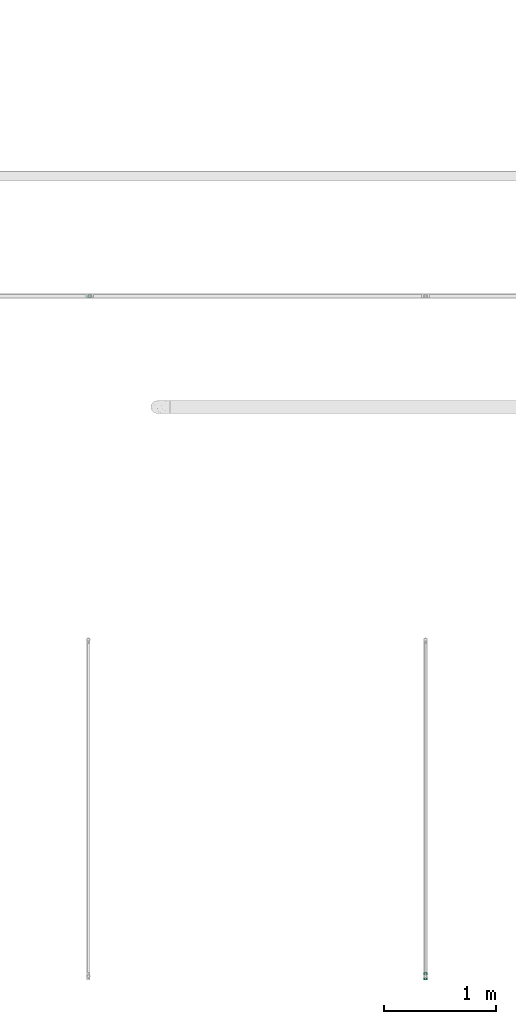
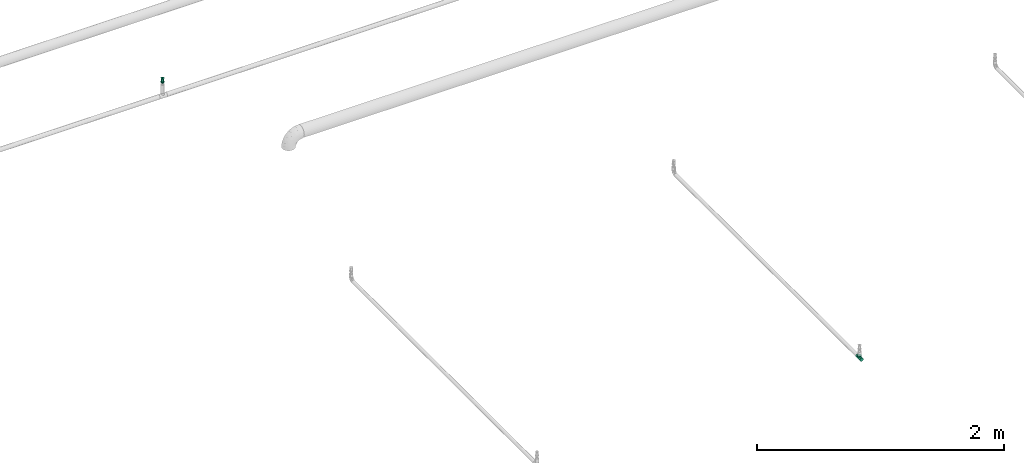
# One storey, part 20 of 94: 1 flow fitting, 1 flow terminal.
"""IFC2X3 building model written with IfcOpenShell, lengths in millimetres."""

from ifc_helpers import new_model, entity, si_unit, converted_unit, derived_unit, direction, frame, origin_with_axes, place, context, subcontext, project, spatial, open_shell, surface_model, source, transform, mapped, type_object, element, save


model = new_model("IFC2X3")

# Units and contexts
model_context = context("Model", 3, precision=0.01, world=frame((0.0, 4.29681676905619e-09, 0.0)), true_north=direction((4.01073788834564e-13, 1.0)))
plan_context = context("Plan", 3, precision=0.01, world=frame((0.0, 4.29681676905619e-09, 0.0)), true_north=direction((4.01073788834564e-13, 1.0)))
body_context = subcontext(model_context, "Body", "Model", "MODEL_VIEW")
ifc_project = project(units=[converted_unit("PLANEANGLEUNIT", "DEGREE", entity("IfcPositiveLengthMeasure", 0.0174532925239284), si_unit("PLANEANGLEUNIT", "RADIAN"), dimensions=[0, 0, 0, 0, 0, 0, 0]), si_unit("AREAUNIT", "SQUARE_METRE"), si_unit("LENGTHUNIT", "METRE", prefix="MILLI"), si_unit("MASSUNIT", "GRAM", prefix="KILO"), si_unit("POWERUNIT", "WATT"), si_unit("PRESSUREUNIT", "PASCAL"), si_unit("FORCEUNIT", "NEWTON", prefix="KILO"), si_unit("ELECTRICCURRENTUNIT", "AMPERE"), si_unit("THERMODYNAMICTEMPERATUREUNIT", "DEGREE_CELSIUS"), si_unit("TIMEUNIT", "SECOND"), si_unit("VOLUMEUNIT", "CUBIC_METRE"), derived_unit("LINEARVELOCITYUNIT", [(si_unit("LENGTHUNIT", "METRE"), 1), (si_unit("TIMEUNIT", "SECOND"), -1)]), derived_unit("VOLUMETRICFLOWRATEUNIT", [(si_unit("VOLUMEUNIT", "CUBIC_METRE"), 1), (si_unit("TIMEUNIT", "SECOND"), -1)]), derived_unit("THERMALTRANSMITTANCEUNIT", [(si_unit("POWERUNIT", "WATT"), 1), (si_unit("THERMODYNAMICTEMPERATUREUNIT", "KELVIN"), -1), (si_unit("AREAUNIT", "SQUARE_METRE"), -1)])], contexts=[model_context, plan_context])

# Site, building, storey
site_placement = place(None, frame((0.0, -4.29681676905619e-09, 0.0), z_axis=(0.0, 0.0, 1.0), x_axis=(1.0, 0.0, 0.0)))
site = spatial("IfcSite", under=ifc_project, at=site_placement, CompositionType="ELEMENT")
building_placement = place(site_placement, frame((0.0, 4.29681676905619e-09, 0.0), z_axis=(0.0, 0.0, 1.0), x_axis=(1.0, 0.0, 0.0)))
building = spatial("IfcBuilding", under=site, at=building_placement, Name="mc-building", CompositionType="ELEMENT")
storey_placement = place(building_placement, frame((0.0, 0.0, 200300.0), z_axis=(0.0, 0.0, 1.0), x_axis=(1.0, 0.0, 0.0)))
storey = spatial("IfcBuildingStorey", under=building, at=storey_placement, Name="Nivå C", CompositionType="ELEMENT", Elevation=200300.0)

# Flow fitting
pipe_fitting_type = type_object("IfcPipeFittingType", Name="magi_pipe_fe_tee_centric_90_NOR", PredefinedType="JUNCTION")
shared_shape_1 = source(origin_with_axes(), body_context, "Body", "SurfaceModel", [
    surface_model("IfcShellBasedSurfaceModel", [(-33.8, 4.37404, -16.32415), (-33.8, 0.0, -16.9), (-33.8, 16.32415, -4.37404), (-33.8, 8.45, -14.63583), (-33.8, 11.9501, -11.9501), (-33.8, 14.63583, -8.45), (-33.8, -16.9, 0.0), (-33.8, -11.9501, -11.9501), (-33.8, -14.63583, -8.45), (-33.8, -8.45, -14.63583), (-33.8, -4.37404, -16.32415), (-33.8, -16.32415, -4.37404), (-33.8, 14.63583, 8.45), (-33.8, 16.32415, 4.37404), (-33.8, -8.45, 14.63583), (-33.8, 8.45, 14.63583), (-33.8, 11.9501, 11.9501), (-33.8, 4.37404, 16.32415), (-33.8, 0.0, 16.9), (-33.8, -11.9501, 11.9501), (-33.8, -14.63583, 8.45), (-33.8, -16.32415, 4.37404), (-33.8, -4.37404, 16.32415), (-33.8, 16.9, 0.0), (33.8, 4.37404, -16.32415), (33.8, -16.9, 0.0), (33.8, 0.0, -16.9), (33.8, 14.63583, -8.45), (33.8, 8.45, -14.63583), (33.8, 16.32415, -4.37404), (33.8, 11.9501, -11.9501), (33.8, -16.32415, 4.37404), (33.8, -8.45, -14.63583), (33.8, -4.37404, -16.32415), (33.8, -11.9501, -11.9501), (33.8, -14.63583, -8.45), (33.8, -16.32415, -4.37404), (33.8, 16.32415, 4.37404), (33.8, 8.45, 14.63583), (33.8, 14.63583, 8.45), (33.8, 11.9501, 11.9501), (33.8, -8.45, 14.63583), (33.8, 4.37404, 16.32415), (33.8, -14.63583, 8.45), (33.8, -11.9501, 11.9501), (33.8, 0.0, 16.9), (33.8, -4.37404, 16.32415), (33.8, 16.9, 0.0), (16.28698, -16.28698, 4.51047), (16.9, -16.9, 0.0), (14.62704, -14.62704, 8.4652), (9.47213, -9.47213, 13.99602), (12.26343, -12.26343, 11.62834), (-16.9, -16.9, 0.0), (-16.28698, -16.28698, 4.51047), (-14.62704, -14.62704, 8.4652), (-12.26343, -12.26343, 11.62834), (-9.47213, -9.47213, 13.99602), (-6.42894, -6.42894, 15.62942), (6.42894, -6.42894, 15.62942), (3.24522, -3.24522, 16.58549), (0.0, 0.0, 16.9), (-3.24522, -3.24522, 16.58549), (3.24522, -3.24522, -16.58549), (0.0, 0.0, -16.9), (-3.24522, -3.24522, -16.58549), (-6.42894, -6.42894, -15.62942), (6.42894, -6.42894, -15.62942), (9.47213, -9.47213, -13.99602), (12.26343, -12.26343, -11.62834), (14.62704, -14.62704, -8.4652), (16.28698, -16.28698, -4.51047), (-9.47213, -9.47213, -13.99602), (-12.26343, -12.26343, -11.62834), (-16.28698, -16.28698, -4.51047), (-14.62704, -14.62704, -8.4652), (4.37404, -25.35, -16.32415), (-16.9, -25.35, 0.0), (0.0, -25.35, -16.9), (14.63583, -25.35, -8.45), (8.45, -25.35, -14.63583), (16.32415, -25.35, -4.37404), (11.9501, -25.35, -11.9501), (-11.9501, -25.35, -11.9501), (-8.45, -25.35, -14.63583), (-4.37404, -25.35, -16.32415), (-14.63583, -25.35, -8.45), (-16.32415, -25.35, -4.37404), (16.9, -25.35, 0.0), (8.45, -25.35, 14.63583), (16.32415, -25.35, 4.37404), (14.63583, -25.35, 8.45), (-8.45, -25.35, 14.63583), (11.9501, -25.35, 11.9501), (4.37404, -25.35, 16.32415), (-16.32415, -25.35, 4.37404), (-11.9501, -25.35, 11.9501), (-14.63583, -25.35, 8.45), (0.0, -25.35, 16.9), (-4.37404, -25.35, 16.32415)], [open_shell([[[0, 1, 2]], [[3, 0, 4]], [[0, 2, 5]], [[4, 0, 5]], [[6, 2, 1]], [[7, 8, 9]], [[1, 10, 9]], [[11, 6, 8]], [[1, 9, 8]], [[1, 8, 6]], [[6, 12, 2]], [[12, 13, 2]], [[14, 12, 6]], [[12, 14, 15]], [[16, 12, 15]], [[17, 15, 18]], [[19, 14, 20]], [[21, 20, 14]], [[22, 18, 14]], [[14, 6, 21]], [[14, 18, 15]], [[23, 2, 13]], [[24, 25, 26]], [[27, 24, 28]], [[27, 29, 24]], [[27, 28, 30]], [[31, 25, 24]], [[26, 32, 33]], [[26, 34, 32]], [[35, 25, 36]], [[35, 34, 26]], [[25, 35, 26]], [[24, 29, 31]], [[29, 37, 38]], [[38, 37, 39]], [[38, 31, 29]], [[38, 39, 40]], [[41, 38, 42]], [[43, 41, 44]], [[41, 43, 31]], [[41, 45, 46]], [[41, 31, 38]], [[42, 45, 41]], [[29, 47, 37]], [[31, 43, 48]], [[25, 31, 49]], [[49, 31, 48]], [[43, 50, 48]], [[44, 41, 51]], [[50, 43, 52]], [[51, 52, 44]], [[52, 43, 44]], [[53, 54, 21]], [[53, 21, 6]], [[21, 54, 20]], [[54, 55, 20]], [[56, 57, 19]], [[19, 20, 56]], [[19, 57, 14]], [[56, 20, 55]], [[14, 57, 58]], [[51, 41, 59]], [[60, 45, 61]], [[59, 46, 60]], [[46, 59, 41]], [[60, 46, 45]], [[61, 45, 42]], [[39, 37, 13]], [[16, 38, 40]], [[12, 40, 39]], [[42, 38, 15]], [[23, 37, 47]], [[62, 61, 18]], [[62, 22, 58]], [[22, 62, 18]], [[58, 22, 14]], [[61, 17, 18]], [[42, 17, 61]], [[15, 17, 42]], [[15, 38, 16]], [[12, 16, 40]], [[13, 12, 39]], [[37, 23, 13]], [[5, 27, 30]], [[23, 47, 29]], [[30, 28, 3]], [[27, 2, 29]], [[26, 33, 63]], [[26, 64, 24]], [[64, 26, 63]], [[28, 24, 0]], [[64, 0, 24]], [[4, 30, 3]], [[2, 27, 5]], [[5, 30, 4]], [[2, 23, 29]], [[65, 66, 10]], [[1, 0, 64]], [[1, 65, 10]], [[66, 9, 10]], [[0, 3, 28]], [[1, 64, 65]], [[63, 33, 67]], [[32, 34, 68]], [[69, 68, 34]], [[35, 70, 69]], [[69, 34, 35]], [[32, 68, 67]], [[36, 25, 49]], [[36, 71, 35]], [[71, 36, 49]], [[35, 71, 70]], [[72, 9, 66]], [[72, 7, 9]], [[7, 72, 73]], [[7, 73, 8]], [[74, 53, 11]], [[75, 74, 8]], [[74, 11, 8]], [[11, 53, 6]], [[75, 8, 73]], [[32, 67, 33]], [[76, 77, 78]], [[79, 76, 80]], [[79, 81, 76]], [[79, 80, 82]], [[77, 76, 81]], [[78, 83, 84]], [[84, 85, 78]], [[86, 77, 87]], [[83, 78, 86]], [[77, 86, 78]], [[81, 88, 77]], [[89, 88, 90]], [[89, 90, 91]], [[92, 77, 89]], [[89, 91, 93]], [[92, 89, 94]], [[95, 96, 97]], [[96, 95, 92]], [[92, 98, 99]], [[95, 77, 92]], [[94, 98, 92]], [[89, 77, 88]], [[77, 95, 53]], [[54, 53, 95]], [[97, 96, 56]], [[96, 92, 57]], [[95, 97, 54]], [[58, 92, 99]], [[55, 54, 97]], [[56, 55, 97]], [[58, 57, 92]], [[98, 61, 62]], [[58, 99, 62]], [[56, 96, 57]], [[62, 99, 98]], [[94, 60, 98]], [[89, 59, 94]], [[91, 90, 48]], [[52, 93, 91]], [[93, 51, 89]], [[49, 90, 88]], [[59, 60, 94]], [[51, 59, 89]], [[49, 48, 90]], [[50, 52, 91]], [[48, 50, 91]], [[51, 93, 52]], [[98, 60, 61]], [[88, 81, 49]], [[71, 49, 81]], [[79, 82, 69]], [[82, 80, 68]], [[81, 79, 71]], [[67, 80, 76]], [[70, 71, 79]], [[69, 70, 79]], [[67, 68, 80]], [[78, 64, 63]], [[67, 76, 63]], [[69, 82, 68]], [[63, 76, 78]], [[85, 65, 78]], [[84, 66, 85]], [[86, 87, 74]], [[86, 73, 83]], [[72, 84, 83]], [[53, 87, 77]], [[66, 65, 85]], [[72, 66, 84]], [[53, 74, 87]], [[75, 73, 86]], [[74, 75, 86]], [[72, 83, 73]], [[78, 65, 64]]])]),
])
flow_fitting_placement = place(storey_placement, frame((524508.12395, 400928.19532, 2900.0), z_axis=(-1.0, 0.0, 0.0), x_axis=(0.0, 1.0, 0.0)))
element("IfcFlowFitting", 1, at=flow_fitting_placement, inside=storey, type_object=pipe_fitting_type, Name="magi_pipe_fe_tee_centric_90_NOR", context=body_context, shape_type="MappedRepresentation", body=[
    mapped(shared_shape_1, transform((0.0, 0.0, 0.0), scale=1.0)),
])

# Flow terminal
fire_suppression_terminal_type = type_object("IfcFireSuppressionTerminalType", Name="68DGR-STD-STÅENDE", PredefinedType="NOTDEFINED")
shared_shape_2 = source(origin_with_axes(), body_context, "Body", "SurfaceModel", [
    surface_model("IfcShellBasedSurfaceModel", [(12.55704, 3.36465, 21.14766), (13.0, 0.0, 21.14766), (12.55704, -3.36465, 21.14766), (-12.55704, -3.36465, 21.14766), (-11.25833, -6.5, 21.14766), (-11.25833, -6.5, 51.0), (3.36465, -12.55704, 51.0), (3.36465, -12.55704, 21.14766), (6.5, -11.25833, 21.14766), (9.19239, -9.19239, 21.14766), (11.25833, -6.5, 21.14766), (9.19239, -9.19239, 51.0), (6.5, -11.25833, 51.0), (11.25833, -6.5, 51.0), (12.55704, -3.36465, 51.0), (13.0, 0.0, 51.0), (9.19239, 9.19239, 51.0), (11.25833, 6.5, 21.14766), (9.19239, 9.19239, 21.14766), (11.25833, 6.5, 51.0), (12.55704, 3.36465, 51.0), (6.5, 11.25833, 51.0), (6.5, 11.25833, 21.14766), (3.36465, 12.55704, 21.14766), (3.36465, 12.55704, 51.0), (-11.25833, 6.5, 51.0), (-11.25833, 6.5, 21.14766), (-12.55704, 3.36465, 21.14766), (0.0, -2.5, 51.0), (-2.5, 0.0, 51.0), (0.0, 2.5, 51.0), (2.5, 0.0, 51.0), (11.31371, 11.31371, 53.0), (-11.31371, 11.31371, 53.0), (-11.31371, -11.31371, 53.0), (11.31371, -11.31371, 53.0), (1.62635, 1.62635, 51.0), (2.16506, 1.25, 51.0), (1.99186, 1.15, 51.0), (-1.76777, 1.76777, 51.0), (-1.25, 2.16506, 51.0), (-1.62635, 1.62635, 51.0), (1.99186, -1.15, 51.0), (2.16506, -1.25, 51.0), (1.62635, -1.62635, 51.0), (-1.62635, -1.62635, 51.0), (-1.25, -2.16506, 51.0), (-1.76777, -1.76777, 51.0), (0.0, 7.3, 0.0), (1.94114, 7.24444, 0.0), (1.88938, 7.05126, 0.0), (5.16188, 5.16188, 0.0), (6.49519, 3.75, 0.0), (6.32199, 3.65, 0.0), (-5.3033, 5.3033, 0.0), (-3.75, 6.49519, 0.0), (-5.16188, 5.16188, 0.0), (6.32199, -3.65, 0.0), (6.49519, -3.75, 0.0), (5.16188, -5.16188, 0.0), (1.88938, -7.05126, 0.0), (1.94114, -7.24444, 0.0), (0.0, -7.3, 0.0), (-5.16188, -5.16188, 0.0), (-3.75, -6.49519, 0.0), (-5.3033, -5.3033, 0.0), (-3.36465, 12.55704, 51.0), (-6.5, 11.25833, 51.0), (0.0, 13.0, 51.0), (-9.19239, 9.19239, 51.0), (0.0, -13.0, 51.0), (-9.19239, -9.19239, 51.0), (-12.55704, -3.36465, 51.0), (-6.5, -11.25833, 51.0), (-3.36465, -12.55704, 51.0), (-7.5, 0.0, -0.1), (-7.24444, 1.94114, 0.1), (-7.24444, 1.94114, -0.1), (-6.49519, 3.75, 0.1), (-6.49519, 3.75, -0.1), (-3.75, 6.49519, -0.1), (-5.3033, 5.3033, -0.1), (-3.75, 6.49519, 0.1), (-5.3033, 5.3033, 0.1), (-1.94114, 7.24444, -0.1), (-1.94114, 7.24444, 0.1), (-7.5, 0.0, 0.1), (0.0, 7.5, 0.1), (0.0, 7.5, -0.1), (1.94114, 7.24444, 0.1), (1.94114, 7.24444, -0.1), (3.75, 6.49519, 0.1), (3.75, 6.49519, -0.1), (6.49519, 3.75, -0.1), (5.3033, 5.3033, -0.1), (6.49519, 3.75, 0.1), (5.3033, 5.3033, 0.1), (7.24444, 1.94114, -0.1), (7.24444, 1.94114, 0.1), (7.5, 0.0, 0.1), (7.5, 0.0, -0.1), (-7.24444, -1.94114, 0.1), (7.24444, -1.94114, 0.1), (5.3033, -5.3033, 0.1), (6.49519, -3.75, 0.1), (-6.49519, -3.75, 0.1), (0.0, -7.5, 0.1), (1.94114, -7.24444, 0.1), (3.75, -6.49519, 0.1), (-3.75, -6.49519, 0.1), (-1.94114, -7.24444, 0.1), (-5.3033, -5.3033, 0.1), (0.0, -7.5, -0.1), (-6.49519, -3.75, -0.1), (1.94114, -7.24444, -0.1), (3.75, -6.49519, -0.1), (5.3033, -5.3033, -0.1), (7.24444, -1.94114, -0.1), (6.49519, -3.75, -0.1), (-3.75, -6.49519, -0.1), (-5.3033, -5.3033, -0.1), (-1.94114, -7.24444, -0.1), (-7.24444, -1.94114, -0.1), (16.0, 0.0, 53.0), (0.0, -16.0, 53.0), (-16.0, 0.0, 53.0), (0.0, 16.0, 53.0), (0.64705, 2.41481, 57.0), (0.0, 2.5, 57.0), (1.25, 2.16506, 57.0), (-2.5, 0.0, 57.0), (1.76777, 1.76777, 57.0), (2.41481, 0.64705, 57.0), (2.16506, 1.25, 57.0), (-0.64705, 2.41481, 57.0), (-1.25, 2.16506, 57.0), (-1.76777, 1.76777, 57.0), (-2.16506, 1.25, 57.0), (-2.41481, 0.64705, 57.0), (2.5, 0.0, 57.0), (1.76777, -1.76777, 57.0), (2.16506, -1.25, 57.0), (2.41481, -0.64705, 57.0), (-2.41481, -0.64705, 57.0), (0.64705, -2.41481, 57.0), (1.25, -2.16506, 57.0), (0.0, -2.5, 57.0), (-1.76777, -1.76777, 57.0), (-2.16506, -1.25, 57.0), (-1.25, -2.16506, 57.0), (-0.64705, -2.41481, 57.0), (1.15, -1.99186, 51.0), (1.76777, -1.76777, 51.0), (1.25, -2.16506, 51.0), (0.59528, -2.22163, 51.0), (0.0, -2.3, 51.0), (0.64705, -2.41481, 51.0), (2.22163, -0.59528, 51.0), (2.3, 0.0, 51.0), (2.41481, -0.64705, 51.0), (-0.64705, -2.41481, 51.0), (-0.59528, -2.22163, 51.0), (-1.15, -1.99186, 51.0), (-2.16506, -1.25, 51.0), (-1.99186, -1.15, 51.0), (-2.22163, -0.59528, 51.0), (-2.3, 0.0, 51.0), (-2.41481, -0.64705, 51.0), (2.22163, 0.59528, 51.0), (2.41481, 0.64705, 51.0), (1.76777, 1.76777, 51.0), (1.15, 1.99186, 51.0), (1.25, 2.16506, 51.0), (0.59528, 2.22163, 51.0), (0.0, 2.3, 51.0), (0.64705, 2.41481, 51.0), (-1.99186, 1.15, 51.0), (-2.16506, 1.25, 51.0), (-2.41481, 0.64705, 51.0), (-2.22163, 0.59528, 51.0), (-0.64705, 2.41481, 51.0), (-0.59528, 2.22163, 51.0), (-1.15, 1.99186, 51.0), (-2.22163, 0.59528, 56.8), (-1.99186, 1.15, 56.8), (-1.15, 1.99186, 56.8), (-1.62635, 1.62635, 56.8), (-0.59528, 2.22163, 56.8), (-2.3, 0.0, 56.8), (0.0, 2.3, 56.8), (0.59528, 2.22163, 56.8), (1.15, 1.99186, 56.8), (1.99186, 1.15, 56.8), (1.62635, 1.62635, 56.8), (2.22163, 0.59528, 56.8), (2.3, 0.0, 56.8), (2.22163, -0.59528, 56.8), (1.99186, -1.15, 56.8), (1.62635, -1.62635, 56.8), (1.15, -1.99186, 56.8), (0.59528, -2.22163, 56.8), (0.0, -2.3, 56.8), (-1.99186, -1.15, 56.8), (-2.22163, -0.59528, 56.8), (-1.62635, -1.62635, 56.8), (-0.59528, -2.22163, 56.8), (-1.15, -1.99186, 56.8), (8.0, -13.85641, 13.0), (4.1411, -15.45481, 13.0), (0.0, -16.0, 13.0), (-4.1411, -15.45481, 13.0), (15.45481, -4.1411, 13.0), (13.85641, -8.0, 13.0), (11.31371, -11.31371, 13.0), (-16.0, 0.0, 13.0), (-8.0, -13.85641, 13.0), (-11.31371, -11.31371, 13.0), (-13.85641, -8.0, 13.0), (-15.45481, -4.1411, 13.0), (15.45481, 4.1411, 13.0), (4.1411, 15.45481, 13.0), (13.85641, 8.0, 13.0), (8.0, 13.85641, 13.0), (11.31371, 11.31371, 13.0), (-15.45481, 4.1411, 13.0), (-11.31371, 11.31371, 13.0), (-8.0, 13.85641, 13.0), (-13.85641, 8.0, 13.0), (-4.1411, 15.45481, 13.0), (0.0, 16.0, 13.0), (16.0, 0.0, 13.0), (7.05126, 1.88938, 12.8), (1.88938, 7.05126, 12.8), (3.65, 6.32199, 12.8), (6.32199, 3.65, 12.8), (5.16188, 5.16188, 12.8), (7.3, 0.0, 12.8), (0.0, 7.3, 12.8), (-3.65, 6.32199, 12.8), (-1.88938, 7.05126, 12.8), (-5.16188, 5.16188, 12.8), (-7.05126, 1.88938, 12.8), (-6.32199, 3.65, 12.8), (7.05126, -1.88938, 12.8), (0.0, -7.3, 12.8), (6.32199, -3.65, 12.8), (3.65, -6.32199, 12.8), (5.16188, -5.16188, 12.8), (1.88938, -7.05126, 12.8), (-7.3, 0.0, 12.8), (-6.32199, -3.65, 12.8), (-7.05126, -1.88938, 12.8), (-1.88938, -7.05126, 12.8), (-5.16188, -5.16188, 12.8), (-3.65, -6.32199, 12.8), (-7.05126, 1.88938, 0.0), (-7.3, 0.0, 0.0), (-6.32199, 3.65, 0.0), (-3.65, 6.32199, 0.0), (-1.88938, 7.05126, 0.0), (3.65, 6.32199, 0.0), (7.05126, 1.88938, 0.0), (7.3, 0.0, 0.0), (3.75, 6.49519, 13.0), (1.94114, 7.24444, 13.0), (7.5, 0.0, 13.0), (5.3033, 5.3033, 13.0), (7.24444, 1.94114, 13.0), (6.49519, 3.75, 13.0), (-5.3033, 5.3033, 13.0), (-7.24444, -1.94114, 13.0), (-1.94114, 7.24444, 13.0), (-3.75, 6.49519, 13.0), (0.0, 7.5, 13.0), (-6.49519, 3.75, 13.0), (-7.24444, 1.94114, 13.0), (7.24444, -1.94114, 13.0), (5.3033, -5.3033, 13.0), (6.49519, -3.75, 13.0), (-6.49519, -3.75, 13.0), (0.0, -7.5, 13.0), (1.94114, -7.24444, 13.0), (3.75, -6.49519, 13.0), (-7.5, 0.0, 13.0), (-3.75, -6.49519, 13.0), (-1.94114, -7.24444, 13.0), (-5.3033, -5.3033, 13.0), (3.65, -6.32199, 0.0), (5.3033, -5.3033, 0.0), (3.75, -6.49519, 0.0), (0.0, -7.5, 0.0), (7.05126, -1.88938, 0.0), (7.24444, -1.94114, 0.0), (7.5, 0.0, 0.0), (-1.94114, -7.24444, 0.0), (-1.88938, -7.05126, 0.0), (-3.65, -6.32199, 0.0), (-6.49519, -3.75, 0.0), (-6.32199, -3.65, 0.0), (-7.05126, -1.88938, 0.0), (-7.24444, -1.94114, 0.0), (-7.5, 0.0, 0.0), (7.24444, 1.94114, 0.0), (5.3033, 5.3033, 0.0), (3.75, 6.49519, 0.0), (0.0, 7.5, 0.0), (-6.49519, 3.75, 0.0), (-7.24444, 1.94114, 0.0), (-1.94114, 7.24444, 0.0), (-12.55704, 3.36465, 51.0), (-13.0, 0.0, 51.0), (0.0, -13.0, 21.14766), (-3.36465, -12.55704, 21.14766), (-6.5, -11.25833, 21.14766), (-9.19239, -9.19239, 21.14766), (-13.0, 0.0, 21.14766), (-9.19239, 9.19239, 21.14766), (-6.5, 11.25833, 21.14766), (-3.36465, 12.55704, 21.14766), (0.0, 13.0, 21.14766), (11.31371, 11.31371, 19.0), (8.0, 13.85641, 19.0), (4.1411, 15.45481, 19.0), (-8.0, 13.85641, 19.0), (16.0, 0.0, 19.0), (15.45481, 4.1411, 19.0), (13.85641, 8.0, 19.0), (-4.1411, 15.45481, 19.0), (0.0, 16.0, 19.0), (-11.31371, 11.31371, 19.0), (-13.85641, 8.0, 19.0), (-15.45481, 4.1411, 19.0), (15.45481, -4.1411, 19.0), (11.31371, -11.31371, 19.0), (13.85641, -8.0, 19.0), (-16.0, 0.0, 19.0), (0.0, -16.0, 19.0), (4.1411, -15.45481, 19.0), (8.0, -13.85641, 19.0), (-13.85641, -8.0, 19.0), (-11.31371, -11.31371, 19.0), (-15.45481, -4.1411, 19.0), (-8.0, -13.85641, 19.0), (-4.1411, -15.45481, 19.0)], [open_shell([[[0, 1, 2]], [[3, 4, 5]], [[6, 7, 8]], [[9, 10, 11]], [[9, 11, 12]], [[10, 13, 11]], [[14, 13, 2]], [[1, 15, 14]], [[16, 17, 18]], [[0, 19, 20]], [[20, 15, 1]], [[21, 16, 18]], [[22, 23, 24]], [[16, 19, 17]], [[25, 26, 27]], [[28, 29, 30]], [[30, 31, 28]], [[31, 30, 32]], [[33, 30, 29]], [[29, 28, 34]], [[35, 28, 31]], [[36, 37, 38]], [[39, 40, 41]], [[42, 43, 44]], [[45, 46, 47]], [[48, 49, 50]], [[51, 52, 53]], [[54, 55, 56]], [[57, 58, 59]], [[60, 61, 62]], [[63, 64, 65]], [[66, 67, 68]], [[67, 24, 68]], [[69, 25, 67]], [[15, 20, 14]], [[70, 6, 12]], [[5, 71, 72]], [[73, 74, 71]], [[72, 71, 74]], [[75, 76, 77]], [[77, 78, 79]], [[80, 81, 82]], [[83, 81, 79]], [[84, 80, 85]], [[76, 78, 77]], [[75, 86, 76]], [[80, 82, 85]], [[82, 81, 83]], [[79, 78, 83]], [[84, 85, 87]], [[87, 88, 84]], [[88, 89, 90]], [[90, 91, 92]], [[93, 94, 95]], [[96, 94, 92]], [[97, 93, 98]], [[91, 96, 92]], [[90, 89, 91]], [[97, 98, 99]], [[98, 93, 95]], [[94, 96, 95]], [[97, 99, 100]], [[87, 89, 88]], [[91, 89, 99]], [[96, 91, 98]], [[91, 99, 98]], [[95, 96, 98]], [[89, 83, 101]], [[85, 82, 87]], [[83, 87, 82]], [[78, 76, 83]], [[89, 87, 83]], [[76, 101, 83]], [[102, 99, 89]], [[103, 104, 102]], [[89, 105, 103]], [[103, 106, 107]], [[108, 103, 107]], [[106, 103, 105]], [[89, 101, 105]], [[101, 76, 86]], [[109, 110, 111]], [[105, 111, 110]], [[106, 105, 110]], [[103, 102, 89]], [[112, 113, 114]], [[115, 114, 116]], [[117, 118, 116]], [[113, 116, 114]], [[116, 113, 117]], [[119, 120, 121]], [[113, 121, 120]], [[121, 113, 112]], [[113, 122, 117]], [[75, 77, 122]], [[100, 117, 122]], [[100, 81, 97]], [[93, 97, 90]], [[90, 92, 94]], [[93, 90, 94]], [[90, 97, 81]], [[79, 81, 77]], [[77, 81, 122]], [[84, 88, 80]], [[81, 80, 88]], [[81, 88, 90]], [[100, 122, 81]], [[100, 102, 117]], [[117, 104, 118]], [[115, 116, 108]], [[103, 116, 118]], [[114, 115, 107]], [[102, 104, 117]], [[100, 99, 102]], [[115, 108, 107]], [[108, 116, 103]], [[118, 104, 103]], [[114, 107, 106]], [[106, 112, 114]], [[112, 110, 121]], [[121, 109, 119]], [[113, 120, 105]], [[111, 120, 119]], [[122, 113, 101]], [[109, 111, 119]], [[121, 110, 109]], [[122, 101, 86]], [[101, 113, 105]], [[120, 111, 105]], [[122, 86, 75]], [[106, 110, 112]], [[31, 123, 35]], [[35, 124, 28]], [[124, 34, 28]], [[29, 34, 125]], [[33, 32, 126]], [[33, 125, 124]], [[124, 32, 33]], [[124, 35, 123]], [[124, 125, 34]], [[123, 32, 124]], [[29, 125, 33]], [[33, 126, 30]], [[126, 32, 30]], [[31, 32, 123]], [[127, 128, 129]], [[129, 130, 131]], [[132, 131, 130]], [[133, 131, 132]], [[130, 129, 128]], [[134, 135, 128]], [[136, 128, 135]], [[137, 138, 136]], [[128, 136, 130]], [[138, 130, 136]], [[139, 132, 130]], [[140, 141, 142]], [[143, 140, 139]], [[144, 140, 143]], [[145, 140, 144]], [[146, 144, 147]], [[139, 130, 143]], [[143, 148, 144]], [[149, 150, 147]], [[144, 148, 147]], [[146, 147, 150]], [[140, 142, 139]], [[151, 152, 153]], [[154, 151, 153]], [[155, 154, 156]], [[153, 156, 154]], [[28, 155, 156]], [[44, 152, 151]], [[157, 158, 159]], [[31, 159, 158]], [[43, 157, 159]], [[152, 44, 43]], [[157, 43, 42]], [[160, 161, 28]], [[161, 155, 28]], [[162, 161, 160]], [[160, 46, 162]], [[162, 46, 45]], [[47, 163, 164]], [[165, 164, 163]], [[45, 47, 164]], [[166, 165, 167]], [[163, 167, 165]], [[29, 166, 167]], [[168, 169, 31]], [[38, 169, 168]], [[169, 38, 37]], [[170, 37, 36]], [[171, 172, 170]], [[173, 172, 171]], [[174, 175, 173]], [[172, 173, 175]], [[30, 175, 174]], [[170, 36, 171]], [[39, 176, 177]], [[41, 176, 39]], [[178, 177, 176]], [[178, 179, 29]], [[176, 179, 178]], [[179, 166, 29]], [[180, 30, 181]], [[182, 180, 181]], [[182, 41, 40]], [[180, 182, 40]], [[181, 30, 174]], [[31, 158, 168]], [[29, 138, 178]], [[178, 137, 177]], [[40, 39, 135]], [[136, 39, 177]], [[180, 40, 134]], [[138, 137, 178]], [[29, 130, 138]], [[40, 135, 134]], [[135, 39, 136]], [[177, 137, 136]], [[180, 134, 128]], [[128, 30, 180]], [[30, 127, 175]], [[175, 129, 172]], [[37, 170, 133]], [[131, 170, 172]], [[169, 37, 132]], [[129, 131, 172]], [[175, 127, 129]], [[169, 132, 139]], [[132, 37, 133]], [[170, 131, 133]], [[169, 139, 31]], [[128, 127, 30]], [[179, 183, 166]], [[176, 184, 179]], [[185, 41, 182]], [[176, 41, 186]], [[187, 182, 181]], [[179, 184, 183]], [[183, 188, 166]], [[187, 185, 182]], [[186, 41, 185]], [[186, 184, 176]], [[189, 187, 181]], [[181, 174, 189]], [[173, 190, 174]], [[171, 191, 173]], [[192, 36, 38]], [[171, 36, 193]], [[194, 38, 168]], [[171, 193, 191]], [[191, 190, 173]], [[195, 194, 168]], [[192, 38, 194]], [[192, 193, 36]], [[158, 195, 168]], [[174, 190, 189]], [[31, 142, 159]], [[159, 141, 43]], [[153, 152, 145]], [[140, 152, 43]], [[156, 153, 144]], [[142, 141, 159]], [[31, 139, 142]], [[153, 145, 144]], [[145, 152, 140]], [[43, 141, 140]], [[156, 144, 146]], [[146, 28, 156]], [[28, 150, 160]], [[160, 149, 46]], [[163, 47, 148]], [[147, 47, 46]], [[167, 163, 143]], [[149, 147, 46]], [[160, 150, 149]], [[167, 143, 130]], [[143, 163, 148]], [[47, 147, 148]], [[167, 130, 29]], [[146, 150, 28]], [[190, 191, 193]], [[190, 193, 195]], [[194, 195, 193]], [[194, 193, 192]], [[190, 195, 186]], [[189, 185, 187]], [[185, 189, 186]], [[186, 183, 184]], [[186, 189, 190]], [[186, 196, 183]], [[186, 195, 196]], [[196, 197, 198]], [[196, 198, 199]], [[199, 200, 201]], [[199, 201, 196]], [[196, 201, 202]], [[188, 202, 203]], [[183, 202, 188]], [[204, 205, 206]], [[205, 204, 202]], [[201, 205, 202]], [[202, 183, 196]], [[157, 196, 158]], [[42, 197, 157]], [[199, 44, 151]], [[42, 44, 198]], [[200, 151, 154]], [[157, 197, 196]], [[196, 195, 158]], [[200, 199, 151]], [[198, 44, 199]], [[198, 197, 42]], [[201, 200, 154]], [[154, 155, 201]], [[161, 205, 155]], [[162, 206, 161]], [[202, 45, 164]], [[162, 45, 204]], [[203, 164, 165]], [[162, 204, 206]], [[206, 205, 161]], [[188, 203, 165]], [[202, 164, 203]], [[202, 204, 45]], [[166, 188, 165]], [[155, 205, 201]], [[207, 208, 209]], [[207, 209, 210]], [[211, 212, 213]], [[213, 207, 214]], [[211, 213, 214]], [[215, 216, 210]], [[217, 210, 216]], [[217, 218, 210]], [[218, 207, 210]], [[218, 214, 207]], [[214, 219, 211]], [[220, 219, 214]], [[221, 219, 220]], [[220, 222, 223]], [[221, 220, 223]], [[214, 224, 220]], [[225, 226, 227]], [[224, 227, 226]], [[228, 229, 226]], [[220, 224, 226]], [[226, 229, 220]], [[219, 230, 211]], [[231, 232, 233]], [[234, 233, 235]], [[231, 236, 232]], [[231, 233, 234]], [[232, 236, 237]], [[237, 238, 239]], [[238, 237, 240]], [[240, 241, 242]], [[240, 237, 236]], [[236, 241, 240]], [[236, 243, 241]], [[244, 243, 245]], [[246, 245, 247]], [[246, 248, 244]], [[246, 244, 245]], [[243, 244, 249]], [[249, 250, 251]], [[250, 249, 252]], [[253, 252, 254]], [[252, 253, 250]], [[249, 244, 252]], [[243, 249, 241]], [[255, 241, 256]], [[257, 242, 255]], [[238, 56, 258]], [[257, 56, 240]], [[239, 258, 259]], [[255, 242, 241]], [[241, 249, 256]], [[239, 238, 258]], [[240, 56, 238]], [[240, 242, 257]], [[237, 239, 259]], [[259, 48, 237]], [[50, 232, 48]], [[260, 233, 50]], [[234, 51, 53]], [[260, 51, 235]], [[231, 53, 261]], [[260, 235, 233]], [[233, 232, 50]], [[236, 231, 261]], [[234, 53, 231]], [[234, 235, 51]], [[262, 236, 261]], [[48, 232, 237]], [[263, 264, 265]], [[266, 263, 267]], [[263, 265, 267]], [[268, 266, 267]], [[264, 269, 270]], [[271, 272, 273]], [[269, 273, 272]], [[274, 275, 269]], [[264, 273, 269]], [[275, 270, 269]], [[276, 265, 264]], [[277, 278, 276]], [[264, 279, 277]], [[277, 280, 281]], [[282, 277, 281]], [[280, 277, 279]], [[264, 270, 279]], [[270, 275, 283]], [[284, 285, 286]], [[279, 286, 285]], [[280, 279, 285]], [[277, 276, 264]], [[287, 288, 289]], [[60, 287, 289]], [[290, 62, 61]], [[289, 61, 60]], [[59, 288, 287]], [[291, 262, 292]], [[293, 292, 262]], [[58, 291, 292]], [[288, 59, 58]], [[291, 58, 57]], [[294, 295, 290]], [[296, 295, 294]], [[294, 64, 296]], [[64, 63, 296]], [[295, 62, 290]], [[65, 297, 298]], [[299, 298, 297]], [[63, 65, 298]], [[256, 299, 300]], [[297, 300, 299]], [[301, 256, 300]], [[261, 302, 293]], [[53, 302, 261]], [[302, 53, 52]], [[303, 52, 51]], [[260, 304, 303]], [[50, 304, 260]], [[304, 50, 49]], [[305, 49, 48]], [[303, 51, 260]], [[54, 257, 306]], [[56, 257, 54]], [[307, 306, 257]], [[307, 255, 301]], [[257, 255, 307]], [[255, 256, 301]], [[308, 305, 259]], [[258, 308, 259]], [[55, 258, 56]], [[308, 258, 55]], [[259, 305, 48]], [[293, 262, 261]], [[301, 275, 307]], [[307, 274, 306]], [[55, 54, 272]], [[269, 54, 306]], [[308, 55, 271]], [[275, 274, 307]], [[301, 283, 275]], [[55, 272, 271]], [[272, 54, 269]], [[306, 274, 269]], [[308, 271, 273]], [[273, 305, 308]], [[305, 264, 49]], [[49, 263, 304]], [[52, 303, 268]], [[266, 303, 304]], [[302, 52, 267]], [[263, 266, 304]], [[49, 264, 263]], [[302, 267, 265]], [[267, 52, 268]], [[303, 266, 268]], [[302, 265, 293]], [[273, 264, 305]], [[293, 276, 292]], [[292, 278, 58]], [[289, 288, 282]], [[277, 288, 58]], [[61, 289, 281]], [[276, 278, 292]], [[293, 265, 276]], [[289, 282, 281]], [[282, 288, 277]], [[58, 278, 277]], [[61, 281, 280]], [[280, 290, 61]], [[290, 285, 294]], [[294, 284, 64]], [[297, 65, 279]], [[286, 65, 64]], [[300, 297, 270]], [[284, 286, 64]], [[294, 285, 284]], [[300, 270, 283]], [[270, 297, 279]], [[65, 286, 279]], [[300, 283, 301]], [[280, 285, 290]], [[291, 243, 262]], [[57, 245, 291]], [[246, 59, 287]], [[57, 59, 247]], [[248, 287, 60]], [[291, 245, 243]], [[243, 236, 262]], [[248, 246, 287]], [[247, 59, 246]], [[247, 245, 57]], [[244, 248, 60]], [[60, 62, 244]], [[295, 252, 62]], [[296, 254, 295]], [[250, 63, 298]], [[296, 63, 253]], [[251, 298, 299]], [[296, 253, 254]], [[254, 252, 295]], [[249, 251, 299]], [[250, 298, 251]], [[250, 253, 63]], [[256, 249, 299]], [[62, 252, 244]], [[16, 21, 24]], [[20, 16, 24]], [[24, 67, 72]], [[19, 16, 20]], [[24, 72, 20]], [[25, 72, 67]], [[309, 310, 25]], [[11, 13, 14]], [[72, 11, 20]], [[74, 12, 11]], [[12, 74, 70]], [[72, 25, 310]], [[72, 74, 11]], [[11, 14, 20]], [[8, 7, 311]], [[8, 311, 312]], [[2, 10, 9]], [[3, 9, 8]], [[3, 26, 9]], [[313, 314, 312]], [[3, 312, 314]], [[4, 3, 314]], [[3, 8, 312]], [[315, 26, 3]], [[2, 9, 26]], [[0, 2, 26]], [[17, 0, 18]], [[23, 22, 18]], [[0, 23, 18]], [[23, 0, 26]], [[316, 317, 26]], [[26, 315, 27]], [[318, 319, 317]], [[23, 26, 317]], [[23, 317, 319]], [[316, 26, 25]], [[318, 317, 67]], [[69, 317, 316]], [[319, 318, 66]], [[310, 309, 315]], [[27, 315, 309]], [[25, 27, 309]], [[25, 69, 316]], [[317, 69, 67]], [[67, 66, 318]], [[66, 68, 319]], [[22, 21, 18]], [[0, 17, 19]], [[1, 0, 20]], [[68, 24, 23]], [[24, 21, 22]], [[319, 68, 23]], [[1, 14, 2]], [[2, 13, 10]], [[6, 311, 7]], [[6, 8, 12]], [[12, 8, 9]], [[6, 70, 311]], [[313, 312, 74]], [[313, 73, 314]], [[71, 4, 314]], [[315, 3, 72]], [[70, 74, 312]], [[74, 73, 313]], [[73, 71, 314]], [[71, 5, 4]], [[3, 5, 72]], [[72, 310, 315]], [[311, 70, 312]], [[320, 321, 322]], [[320, 322, 323]], [[320, 324, 325]], [[326, 320, 325]], [[324, 320, 323]], [[327, 323, 328]], [[323, 322, 328]], [[329, 330, 323]], [[331, 323, 330]], [[323, 331, 324]], [[331, 332, 324]], [[333, 334, 332]], [[335, 333, 331]], [[336, 337, 338]], [[335, 338, 333]], [[338, 335, 336]], [[339, 340, 341]], [[335, 341, 340]], [[342, 343, 340]], [[335, 340, 343]], [[343, 336, 335]], [[332, 331, 333]], [[214, 331, 224]], [[224, 330, 227]], [[226, 225, 323]], [[329, 225, 227]], [[228, 226, 327]], [[331, 330, 224]], [[214, 335, 331]], [[226, 323, 327]], [[323, 225, 329]], [[227, 330, 329]], [[228, 327, 328]], [[328, 229, 228]], [[229, 322, 220]], [[220, 321, 222]], [[221, 223, 326]], [[320, 223, 222]], [[219, 221, 325]], [[321, 320, 222]], [[220, 322, 321]], [[219, 325, 324]], [[325, 221, 326]], [[223, 320, 326]], [[219, 324, 230]], [[328, 322, 229]], [[230, 332, 211]], [[211, 334, 212]], [[207, 213, 338]], [[333, 213, 212]], [[208, 207, 337]], [[332, 334, 211]], [[230, 324, 332]], [[207, 338, 337]], [[338, 213, 333]], [[212, 334, 333]], [[208, 337, 336]], [[336, 209, 208]], [[209, 343, 210]], [[210, 342, 215]], [[217, 216, 339]], [[340, 216, 215]], [[218, 217, 341]], [[342, 340, 215]], [[210, 343, 342]], [[218, 341, 335]], [[341, 217, 339]], [[216, 340, 339]], [[218, 335, 214]], [[336, 343, 209]]])]),
])
flow_terminal_placement = place(storey_placement, frame((521508.72873, 407003.74497, 2972.0), z_axis=(0.0, 0.0, 1.0), x_axis=(-1.0, 0.0, 0.0)))
element("IfcFlowTerminal", 2, at=flow_terminal_placement, inside=storey, type_object=fire_suppression_terminal_type, Name="68DGR-STD-STÅENDE", context=body_context, shape_type="MappedRepresentation", body=[
    mapped(shared_shape_2, transform((0.0, 0.0, 0.0), scale=1.0)),
])

save(model, "model.ifc")
